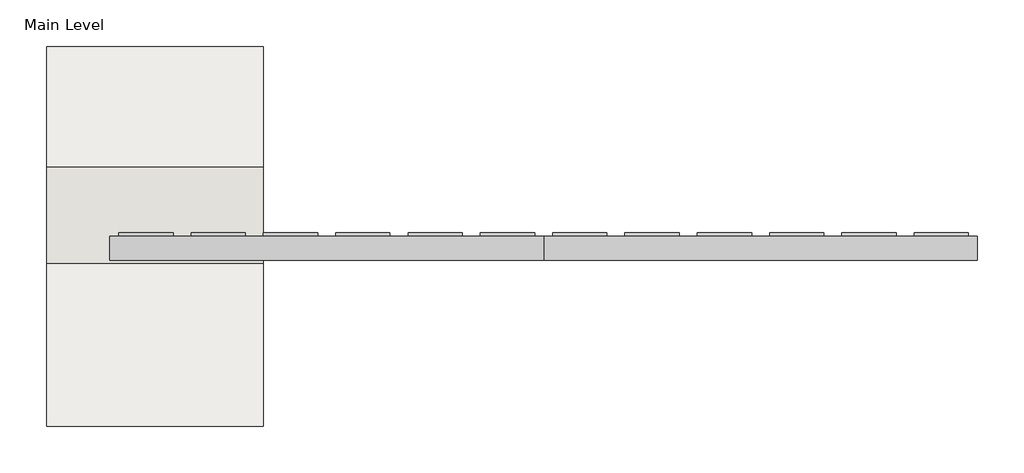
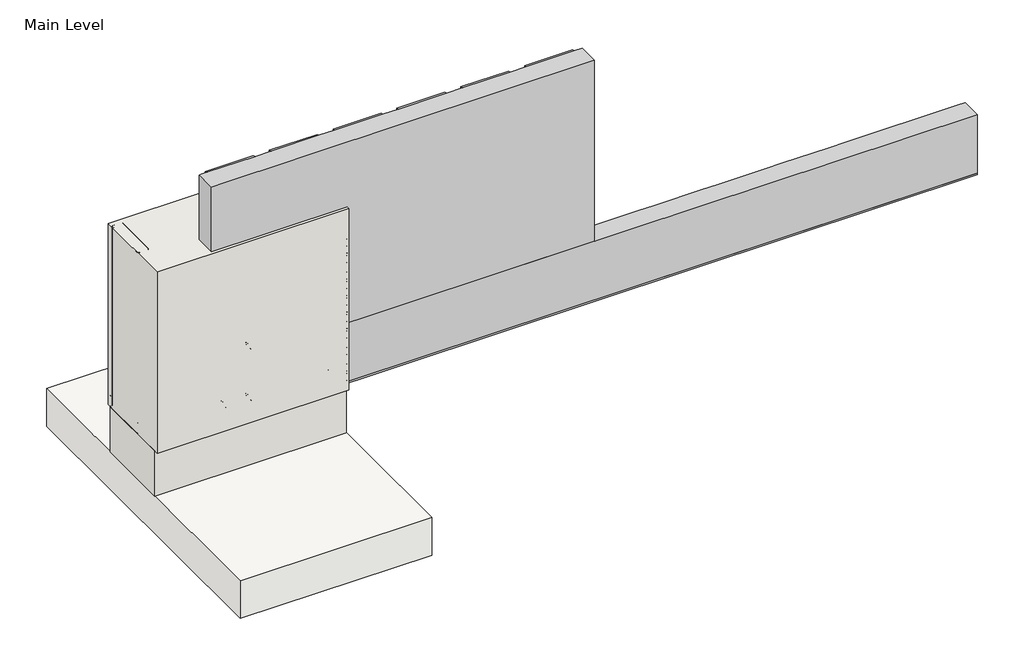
# One storey, incomplete: 18 proxies, 2 walls, 1 slab.
"""IFC4 building model written with IfcOpenShell, lengths in millimetres."""

from ifc_helpers import new_model, si_unit, frame, origin, origin_with_axes, place, context, project, spatial, polyline, outline, extrude, transform, mapped, element, save
from components import generic_models_31547c53, generic_models_0bbfdc8f, generic_models_1e1ad44f, generic_models_7dd17a53, generic_models_441de798, generic_models_9d0e7a2a, generic_models_8c792c9c, generic_models_03ec6e0e, proxy_215900e5, proxy_691c8b69, wood_blocking_c9818c35

model = new_model("IFC4")

# Units and contexts
model_context = context("Model", 3, world=origin())
ifc_project = project(units=[si_unit("LENGTHUNIT", "METRE", prefix="MILLI")], contexts=[model_context])

# Site, building, storey
site = spatial("IfcSite", under=ifc_project)
building = spatial("IfcBuilding", under=site)
storey = spatial("IfcBuildingStorey", under=building, Name="Main Level", Elevation=0.0)

# Proxies
placement = place(None, origin())
generic_models_shape = generic_models_31547c53(model_context)
element("IfcBuildingElementProxy", 1, Name="Durabond Generic Model Sealant Vent : Durabond Generic Model Sealant Vent", ObjectType="Durabond Generic Model Sealant Vent : Durabond Generic Model Sealant Vent", at=placement, inside=storey, context=model_context, shape_type="MappedRepresentation", body=[
    mapped(generic_models_shape, transform((26865.4101773, 546.8432813, 8.5594788), x_axis=(1.0, 0.0, 0.0), y_axis=(0.0, 0.08715574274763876, -0.9961946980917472), z_axis=(0.0, 0.9961946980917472, 0.08715574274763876))),
])
generic_models_2_shape = generic_models_0bbfdc8f(model_context)
generic_models_3_shape = generic_models_1e1ad44f(model_context)
generic_models_4_shape = generic_models_7dd17a53(model_context)
generic_models_5_shape = generic_models_441de798(model_context)
element("IfcBuildingElementProxy", 2, Name="CRAi Generic Model Mesh Piece Face Based : CRAi Generic Model Mesh Piece Face Based", ObjectType="CRAi Generic Model Mesh Piece Face Based : CRAi Generic Model Mesh Piece Face Based", at=placement, inside=storey, context=model_context, shape_type="MappedRepresentation", body=[
    mapped(generic_models_2_shape, transform((26933.6726773, 541.9066297, 261.6963215), x_axis=(-1.0, 0.0, 0.0), y_axis=(0.0, 0.0, -1.0), z_axis=(0.0, -1.0, 0.0))),
    mapped(generic_models_3_shape, transform((26933.6726773, 541.9066297, 261.6963215), x_axis=(-1.0, 0.0, 0.0), y_axis=(0.0, 0.0, -1.0), z_axis=(0.0, -1.0, 0.0))),
    mapped(generic_models_4_shape, transform((26933.6726773, 541.9066297, 261.6963215), x_axis=(-1.0, 0.0, 0.0), y_axis=(0.0, 0.0, -1.0), z_axis=(0.0, -1.0, 0.0))),
    mapped(generic_models_5_shape, transform((26933.6726773, 541.9066297, 261.6963215), x_axis=(-1.0, 0.0, 0.0), y_axis=(0.0, 0.0, -1.0), z_axis=(0.0, -1.0, 0.0))),
])
generic_models_6_shape = generic_models_9d0e7a2a(model_context)
element("IfcBuildingElementProxy", 3, Name="CRAi Generic Model Metal Stud Array : CRAi Generic Model Metal Stud Array", ObjectType="CRAi Generic Model Metal Stud Array : CRAi Generic Model Metal Stud Array", at=placement, inside=storey, context=model_context, shape_type="MappedRepresentation", body=[
    mapped(generic_models_6_shape, transform((26692.3726773, 719.7066297, 6.35), x_axis=(-1.0, 0.0, 0.0), y_axis=(0.0, -1.0, 0.0), z_axis=(0.0, 0.0, 1.0))),
])
generic_models_7_shape = generic_models_8c792c9c(model_context)
element("IfcBuildingElementProxy", 4, Name="Durabond Generic Model Screw w Standard Wall Plate : Durabond Generic Model Screw w Standard Wall Plate", ObjectType="Durabond Generic Model Screw w Standard Wall Plate : Durabond Generic Model Screw w Standard Wall Plate", at=placement, inside=storey, context=model_context, shape_type="MappedRepresentation", body=[
    mapped(generic_models_7_shape, transform((26781.2726773, 544.2878797, 85.242643), x_axis=(1.0, 0.0, 0.0), y_axis=(0.0, 0.0, 1.0), z_axis=(0.0, -1.0, 0.0))),
])
element("IfcBuildingElementProxy", 5, Name="Durabond Generic Model Screw w Standard Wall Plate : Durabond Generic Model Screw w Standard Wall Plate", ObjectType="Durabond Generic Model Screw w Standard Wall Plate : Durabond Generic Model Screw w Standard Wall Plate", at=placement, inside=storey, context=model_context, shape_type="MappedRepresentation", body=[
    mapped(generic_models_7_shape, transform((26781.2726773, 544.2878797, 256.692643), x_axis=(1.0, 0.0, 0.0), y_axis=(0.0, 0.0, 1.0), z_axis=(0.0, -1.0, 0.0))),
])
element("IfcBuildingElementProxy", 6, Name="Durabond Generic Model Screw w Standard Wall Plate : Durabond Generic Model Screw w Standard Wall Plate", ObjectType="Durabond Generic Model Screw w Standard Wall Plate : Durabond Generic Model Screw w Standard Wall Plate", at=placement, inside=storey, context=model_context, shape_type="MappedRepresentation", body=[
    mapped(generic_models_7_shape, transform((26703.4851773, 547.4628797, 85.242643), x_axis=(1.0, 0.0, 0.0), y_axis=(0.0, 0.0, 1.0), z_axis=(0.0, -1.0, 0.0))),
])
element("IfcBuildingElementProxy", 7, Name="Durabond Generic Model Screw w Standard Wall Plate : Durabond Generic Model Screw w Standard Wall Plate", ObjectType="Durabond Generic Model Screw w Standard Wall Plate : Durabond Generic Model Screw w Standard Wall Plate", at=placement, inside=storey, context=model_context, shape_type="MappedRepresentation", body=[
    mapped(generic_models_7_shape, transform((26716.1851773, 547.4628797, 256.692643), x_axis=(1.0, 0.0, 0.0), y_axis=(0.0, 0.0, 1.0), z_axis=(0.0, -1.0, 0.0))),
])
generic_models_8_shape = generic_models_03ec6e0e(model_context)
element("IfcBuildingElementProxy", 8, Name="CRAi Generic Model Drywall Screw : CRAi Generic Model Drywall Screw", ObjectType="CRAi Generic Model Drywall Screw : CRAi Generic Model Drywall Screw", at=placement, inside=storey, context=model_context, shape_type="MappedRepresentation", body=[
    mapped(generic_models_8_shape, transform((26508.2226773, 627.6316297, 25.4), x_axis=(1.0, 0.0, 0.0), y_axis=(0.0, 0.0, 1.0), z_axis=(0.0, -1.0, 0.0))),
])
element("IfcBuildingElementProxy", 9, Name="CRAi Generic Model Drywall Screw : CRAi Generic Model Drywall Screw", ObjectType="CRAi Generic Model Drywall Screw : CRAi Generic Model Drywall Screw", at=placement, inside=storey, context=model_context, shape_type="MappedRepresentation", body=[
    mapped(generic_models_8_shape, transform((26508.2226773, 627.6316297, 215.9), x_axis=(1.0, 0.0, 0.0), y_axis=(0.0, 0.0, 1.0), z_axis=(0.0, -1.0, 0.0))),
])
element("IfcBuildingElementProxy", 10, Name="CRAi Generic Model Drywall Screw : CRAi Generic Model Drywall Screw", ObjectType="CRAi Generic Model Drywall Screw : CRAi Generic Model Drywall Screw", at=placement, inside=storey, context=model_context, shape_type="MappedRepresentation", body=[
    mapped(generic_models_8_shape, transform((26508.2226773, 627.6316297, 406.4), x_axis=(1.0, 0.0, 0.0), y_axis=(0.0, 0.0, 1.0), z_axis=(0.0, -1.0, 0.0))),
])
element("IfcBuildingElementProxy", 11, Name="CRAi Generic Model Drywall Screw : CRAi Generic Model Drywall Screw", ObjectType="CRAi Generic Model Drywall Screw : CRAi Generic Model Drywall Screw", at=placement, inside=storey, context=model_context, shape_type="MappedRepresentation", body=[
    mapped(generic_models_8_shape, transform((26508.2226773, 627.6316297, 596.9), x_axis=(1.0, 0.0, 0.0), y_axis=(0.0, 0.0, 1.0), z_axis=(0.0, -1.0, 0.0))),
])
element("IfcBuildingElementProxy", 12, Name="CRAi Generic Model Drywall Screw : CRAi Generic Model Drywall Screw", ObjectType="CRAi Generic Model Drywall Screw : CRAi Generic Model Drywall Screw", at=placement, inside=storey, context=model_context, shape_type="MappedRepresentation", body=[
    mapped(generic_models_8_shape, transform((26876.5226773, 627.6316297, 25.4), x_axis=(1.0, 0.0, 0.0), y_axis=(0.0, 0.0, 1.0), z_axis=(0.0, -1.0, 0.0))),
])
element("IfcBuildingElementProxy", 13, Name="CRAi Generic Model Drywall Screw : CRAi Generic Model Drywall Screw", ObjectType="CRAi Generic Model Drywall Screw : CRAi Generic Model Drywall Screw", at=placement, inside=storey, context=model_context, shape_type="MappedRepresentation", body=[
    mapped(generic_models_8_shape, transform((26876.5226773, 627.6316297, 215.9), x_axis=(1.0, 0.0, 0.0), y_axis=(0.0, 0.0, 1.0), z_axis=(0.0, -1.0, 0.0))),
])
element("IfcBuildingElementProxy", 14, Name="CRAi Generic Model Drywall Screw : CRAi Generic Model Drywall Screw", ObjectType="CRAi Generic Model Drywall Screw : CRAi Generic Model Drywall Screw", at=placement, inside=storey, context=model_context, shape_type="MappedRepresentation", body=[
    mapped(generic_models_8_shape, transform((26876.5226773, 627.6316297, 406.4), x_axis=(1.0, 0.0, 0.0), y_axis=(0.0, 0.0, 1.0), z_axis=(0.0, -1.0, 0.0))),
])
element("IfcBuildingElementProxy", 15, Name="CRAi Generic Model Drywall Screw : CRAi Generic Model Drywall Screw", ObjectType="CRAi Generic Model Drywall Screw : CRAi Generic Model Drywall Screw", at=placement, inside=storey, context=model_context, shape_type="MappedRepresentation", body=[
    mapped(generic_models_8_shape, transform((26876.5226773, 627.6316297, 596.9), x_axis=(1.0, 0.0, 0.0), y_axis=(0.0, 0.0, 1.0), z_axis=(0.0, -1.0, 0.0))),
])
proxy_shape = proxy_215900e5(model_context)
element("IfcBuildingElementProxy", 16, Name="Durabond Generic Model Insulite Select Extruded Insulation Board : 3\"", ObjectType="Durabond Generic Model Insulite Select Extruded Insulation Board : 3\"", at=placement, inside=storey, context=model_context, shape_type="MappedRepresentation", body=[
    mapped(proxy_shape, transform((27276.5726773, 624.4566297, 523.392643), x_axis=(1.0, 0.0, 0.0), y_axis=(0.0, 0.0, 1.0), z_axis=(0.0, -1.0, 0.0))),
])
proxy_2_shape = proxy_691c8b69(model_context)
element("IfcBuildingElementProxy", 17, Name="Durabond Generic Model Insulite Select Extruded Vent Board : 3\"", ObjectType="Durabond Generic Model Insulite Select Extruded Vent Board : 3\"", at=placement, inside=storey, context=model_context, shape_type="MappedRepresentation", body=[
    mapped(proxy_2_shape, transform((27886.1726773, 624.4566297, 116.992643), x_axis=(1.0, 0.0, 0.0), y_axis=(0.0, 0.0, 1.0), z_axis=(0.0, -1.0, 0.0))),
])
wood_blocking_shape = wood_blocking_c9818c35(model_context)
element("IfcBuildingElementProxy", 18, Name="CRAi Generic Model Line Based Metal Framing Track : Wood Blocking", ObjectType="CRAi Generic Model Line Based Metal Framing Track : Wood Blocking", at=placement, inside=storey, context=model_context, shape_type="MappedRepresentation", body=[
    mapped(wood_blocking_shape, transform((26489.1726773, 643.5066297, 0.0), x_axis=(1.0, 0.0, 0.0), y_axis=(0.0, 1.0, 0.0), z_axis=(0.0, 0.0, 1.0))),
])

# Slab
element("IfcSlab", 19, ObjectType="CRAi Concrete Floor - 5\"", at=placement, inside=storey, context=model_context, shape_type="SweptSolid", body=[
    extrude(outline(polyline([(27098.7726773, 81.5316297), (26489.1726773, 81.5316297), (26489.1726773, 1148.3316297), (27098.7726773, 1148.3316297), (27098.7726773, 81.5316297)])), frame((0.0, 0.0, -279.4), z_axis=(0.0, 0.0, 1.0), x_axis=(1.0, 0.0, 0.0)), (0.0, 0.0, 1.0), 127.0),
])

# Walls
element("IfcWall", 20, ObjectType="189mm (7.5”) EIFS Field Applied on Mtl. Stud Layer - 50mm Grooved Insulation Board Metal Stud Wall(AirStop) 2", at=placement, inside=storey, context=model_context, shape_type="SweptSolid", body=[
    extrude(outline(polyline([(27098.7726773, 538.7316297), (26489.1726773, 538.7316297), (26489.1726773, 808.6066297), (27098.7726773, 808.6066297), (27098.7726773, 538.7316297)])), origin_with_axes(), (0.0, 0.0, 1.0), 609.6),
])
element("IfcWall", 21, ObjectType="Durabond 10\" Concrete Wall 2", at=placement, inside=storey, context=model_context, shape_type="SweptSolid", body=[
    extrude(outline(polyline([(27098.7726773, 551.4316297), (26489.1726773, 551.4316297), (26489.1726773, 795.9066297), (27098.7726773, 795.9066297), (27098.7726773, 551.4316297)])), frame((0.0, 0.0, -152.4), z_axis=(0.0, 0.0, 1.0), x_axis=(1.0, 0.0, 0.0)), (0.0, 0.0, 1.0), 152.4),
])

save(model, "model.ifc")
